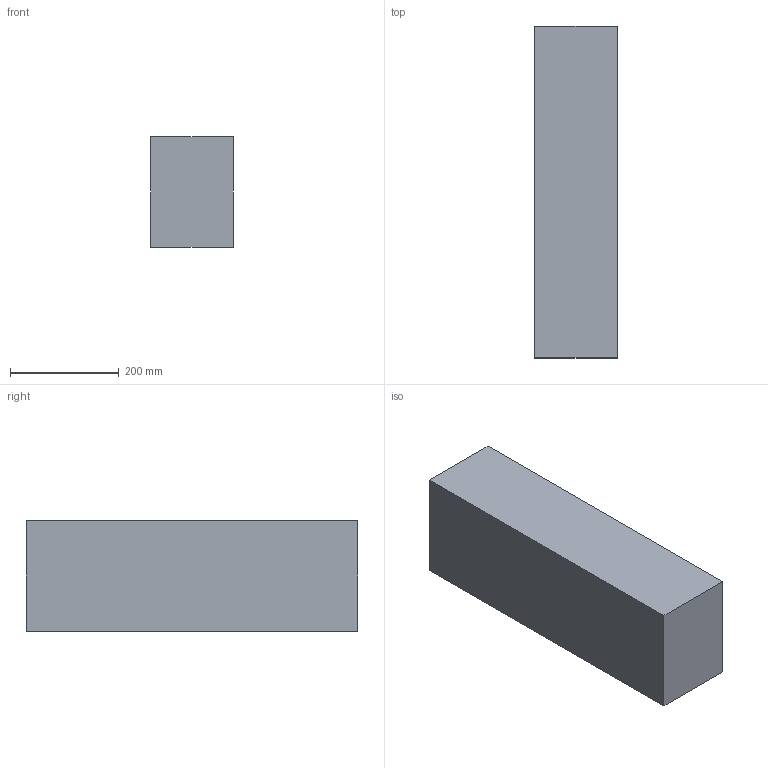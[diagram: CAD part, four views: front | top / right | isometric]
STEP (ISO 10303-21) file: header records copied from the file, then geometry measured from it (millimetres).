
FILE_DESCRIPTION(/* description */ (''),/* implementation_level */ '2;1');
FILE_NAME(/* name */ '6x8x24',/* time_stamp */ '2024-09-20T11:46:53-05:00',/* author */ (''),/* organization */ (''),/* preprocessor_version */ 'ST-DEVELOPER v19.2',/* originating_system */ 'Rhino 8.5',/* authorisation */ '');
FILE_SCHEMA (('CONFIG_CONTROL_DESIGN'));
Length unit declared in the file: inch
Products named in the file (1): Document
Bounding box: 152.4 x 609.6 x 203.2 mm (x, y, z)
Volume: 18877897.7 mm3; surface area: 495482.9 mm2
Topology: 1 solids, 1 shells, 6 faces, 12 edges, 8 vertices
Faces by surface type: plane 6
Entity records: 226 total; most frequent: CARTESIAN_POINT 40, ORIENTED_EDGE 24, EDGE_CURVE 12, B_SPLINE_CURVE_WITH_KNOTS 12, DIRECTION 10, VERTEX_POINT 8, AXIS2_PLACEMENT_3D 8, ORGANIZATION 7
